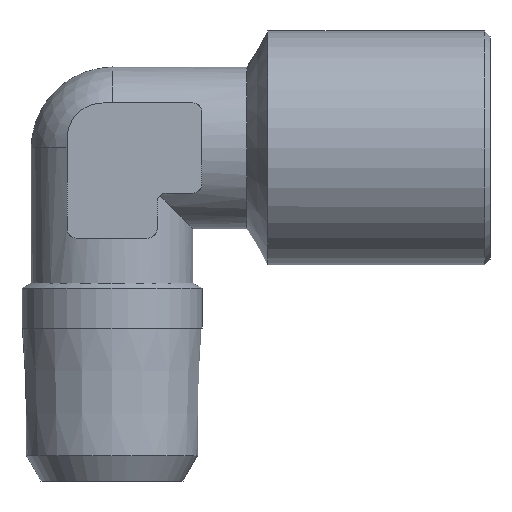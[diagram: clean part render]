
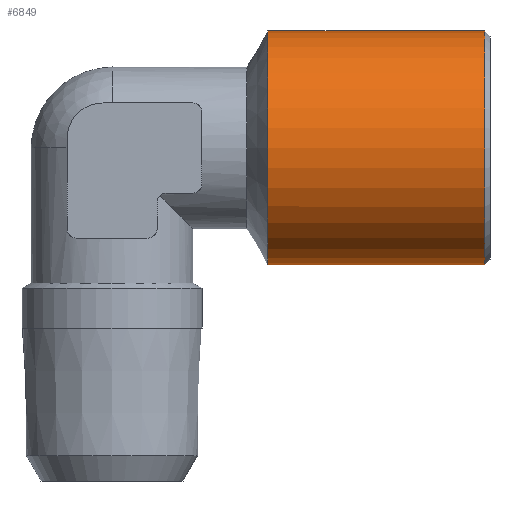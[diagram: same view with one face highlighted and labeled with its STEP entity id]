
A CAD part, front view. The second image highlights one B-rep face of the part: STEP entity #6849.
In plain terms, the highlighted cylindrical face has radius 6.5 mm (diameter 13 mm), a full revolution.
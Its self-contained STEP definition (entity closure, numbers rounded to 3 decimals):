
#1371=CYLINDRICAL_SURFACE('',#6724,6.5);
#1414=ORIENTED_EDGE('',*,*,#1787,.T.);
#1415=ORIENTED_EDGE('',*,*,#1788,.T.);
#1656=CIRCLE('',#6723,6.5);
#1657=CIRCLE('',#6725,6.5);
#1700=VERTEX_POINT('',#2335);
#1701=VERTEX_POINT('',#2338);
#1787=EDGE_CURVE('',#1700,#1700,#1656,.T.);
#1788=EDGE_CURVE('',#1701,#1701,#1657,.T.);
#1911=EDGE_LOOP('',(#1414));
#1912=EDGE_LOOP('',(#1415));
#1988=FACE_BOUND('',#1911,.T.);
#1989=FACE_BOUND('',#1912,.T.);
#2071=DIRECTION('',(-1.,0.,0.));
#2072=DIRECTION('',(0.,0.,6.5));
#2073=DIRECTION('',(-1.,0.,0.));
#2074=DIRECTION('',(0.,1.,0.));
#2075=DIRECTION('',(1.,0.,0.));
#2076=DIRECTION('',(0.,0.,6.5));
#2335=CARTESIAN_POINT('',(49.302,32.865,6.5));
#2336=CARTESIAN_POINT('',(49.302,32.865,0.));
#2337=CARTESIAN_POINT('',(49.302,32.865,0.));
#2338=CARTESIAN_POINT('',(37.256,32.865,6.5));
#2339=CARTESIAN_POINT('',(37.256,32.865,0.));
#6723=AXIS2_PLACEMENT_3D('',#2336,#2071,#2072);
#6724=AXIS2_PLACEMENT_3D('',#2337,#2073,#2074);
#6725=AXIS2_PLACEMENT_3D('',#2339,#2075,#2076);
#6849=ADVANCED_FACE('',(#1988,#1989),#1371,.T.);
